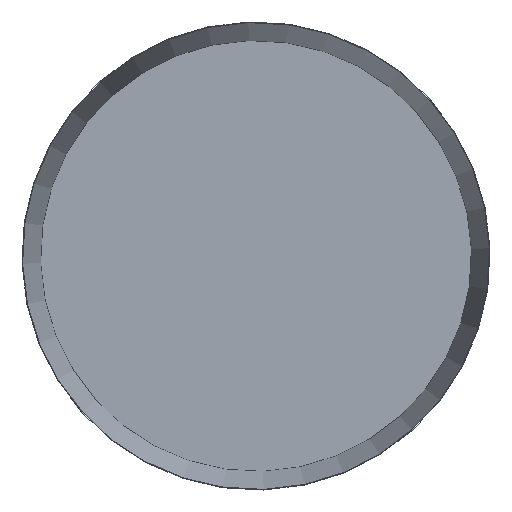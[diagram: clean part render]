
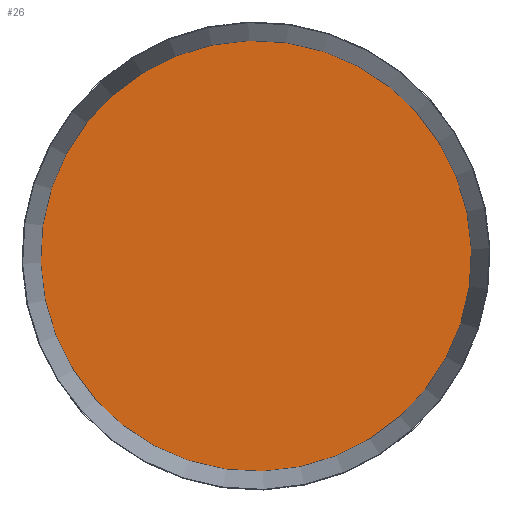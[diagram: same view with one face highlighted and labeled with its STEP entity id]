
A CAD part, front view. The second image highlights one B-rep face of the part: STEP entity #26.
In plain terms, the highlighted planar face has unit normal (0, -1, 0).
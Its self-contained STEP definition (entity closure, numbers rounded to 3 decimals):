
#1=CARTESIAN_POINT('',(798.982,39.985,102.055));
#2=DIRECTION('',(0.,-1.,0.));
#3=DIRECTION('',(1.,0.,0.006));
#4=AXIS2_PLACEMENT_3D('',#1,#2,#3);
#6=CARTESIAN_POINT('',(798.982,39.985,342.805));
#7=DIRECTION('',(0.,1.,0.));
#8=DIRECTION('',(-0.012,0.,-1.));
#9=AXIS2_PLACEMENT_3D('',#6,#7,#8);
#11=CARTESIAN_POINT('',(795.982,39.985,102.074));
#12=CARTESIAN_POINT('',(801.982,39.985,102.074));
#13=VERTEX_POINT('',#11);
#14=VERTEX_POINT('',#12);
#15=CARTESIAN_POINT('',(798.982,39.985,342.805));
#16=DIRECTION('',(0.,1.,0.));
#17=DIRECTION('',(1.,0.,0.));
#18=AXIS2_PLACEMENT_3D('',#15,#16,#17);
#19=PLANE('',#18);
#21=ORIENTED_EDGE('',*,*,#20,.T.);
#23=ORIENTED_EDGE('',*,*,#22,.T.);
#24=EDGE_LOOP('',(#21,#23));
#25=FACE_OUTER_BOUND('',#24,.F.);
#26=ADVANCED_FACE('',(#25),#19,.F.);
#5=CIRCLE('',#4,3.);
#10=CIRCLE('',#9,240.75);
#20=EDGE_CURVE('',#14,#13,#5,.T.);
#22=EDGE_CURVE('',#13,#14,#10,.T.);
